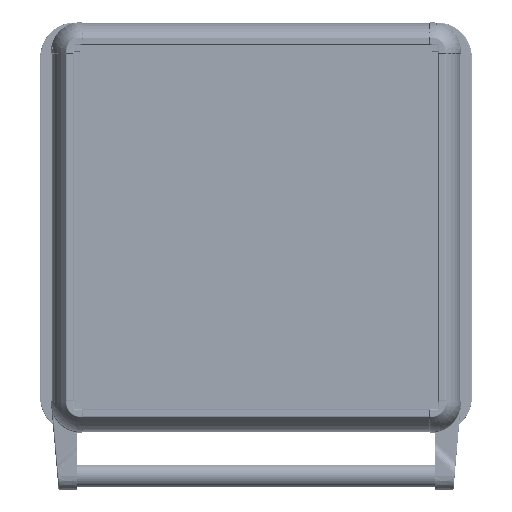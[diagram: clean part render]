
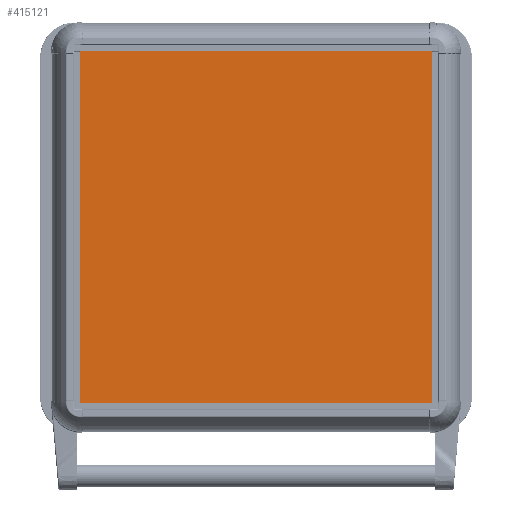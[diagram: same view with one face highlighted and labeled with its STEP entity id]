
A CAD part, top view. The second image highlights one B-rep face of the part: STEP entity #415121.
In plain terms, the highlighted planar face has unit normal (0, 0, 1).
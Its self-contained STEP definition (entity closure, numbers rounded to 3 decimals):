
#13785 = LINE ( 'NONE', #422975, #209147 ) ;
#33529 = CARTESIAN_POINT ( 'NONE',  ( 150., 150., 2. ) ) ;
#35062 = VECTOR ( 'NONE', #278284, 1000. ) ;
#76087 = EDGE_CURVE ( 'NONE', #360252, #273351, #377451, .T. ) ;
#77436 = CARTESIAN_POINT ( 'NONE',  ( 150., 150., 2. ) ) ;
#86476 = EDGE_CURVE ( 'NONE', #225998, #197206, #13785, .T. ) ;
#90057 = ORIENTED_EDGE ( 'NONE', *, *, #127030, .T. ) ;
#109798 = DIRECTION ( 'NONE',  ( 0., 0., 1. ) ) ;
#122253 = EDGE_CURVE ( 'NONE', #197206, #360252, #396234, .T. ) ;
#127030 = EDGE_CURVE ( 'NONE', #273351, #225998, #141972, .T. ) ;
#141972 = LINE ( 'NONE', #245381, #434109 ) ;
#177319 = CARTESIAN_POINT ( 'NONE',  ( 0., 0., 2. ) ) ;
#187472 = ORIENTED_EDGE ( 'NONE', *, *, #76087, .T. ) ;
#197206 = VERTEX_POINT ( 'NONE', #237298 ) ;
#209147 = VECTOR ( 'NONE', #254133, 1000. ) ;
#225998 = VERTEX_POINT ( 'NONE', #235156 ) ;
#228729 = ORIENTED_EDGE ( 'NONE', *, *, #122253, .T. ) ;
#235156 = CARTESIAN_POINT ( 'NONE',  ( -150., 150., 2. ) ) ;
#237298 = CARTESIAN_POINT ( 'NONE',  ( -150., -150., 2. ) ) ;
#245381 = CARTESIAN_POINT ( 'NONE',  ( -150., 150., 2. ) ) ;
#246984 = PLANE ( 'NONE',  #276387 ) ;
#254133 = DIRECTION ( 'NONE',  ( 0., -1., 0. ) ) ;
#258381 = VECTOR ( 'NONE', #360278, 1000. ) ;
#273351 = VERTEX_POINT ( 'NONE', #77436 ) ;
#276387 = AXIS2_PLACEMENT_3D ( 'NONE', #177319, #109798, #314366 ) ;
#278284 = DIRECTION ( 'NONE',  ( 0., 1., 0. ) ) ;
#314366 = DIRECTION ( 'NONE',  ( 1., 0., 0. ) ) ;
#332932 = CARTESIAN_POINT ( 'NONE',  ( 150., -150., 2. ) ) ;
#360252 = VERTEX_POINT ( 'NONE', #332932 ) ;
#360278 = DIRECTION ( 'NONE',  ( 1., 0., 0. ) ) ;
#377451 = LINE ( 'NONE', #33529, #35062 ) ;
#381482 = ORIENTED_EDGE ( 'NONE', *, *, #86476, .T. ) ;
#390397 = EDGE_LOOP ( 'NONE', ( #187472, #90057, #381482, #228729 ) ) ;
#394028 = CARTESIAN_POINT ( 'NONE',  ( -150., -150., 2. ) ) ;
#396234 = LINE ( 'NONE', #394028, #258381 ) ;
#407516 = DIRECTION ( 'NONE',  ( -1., 0., 0. ) ) ;
#415121 = ADVANCED_FACE ( 'NONE', ( #418032 ), #246984, .T. ) ;
#418032 = FACE_OUTER_BOUND ( 'NONE', #390397, .T. ) ;
#422975 = CARTESIAN_POINT ( 'NONE',  ( -150., 150., 2. ) ) ;
#434109 = VECTOR ( 'NONE', #407516, 1000. ) ;
